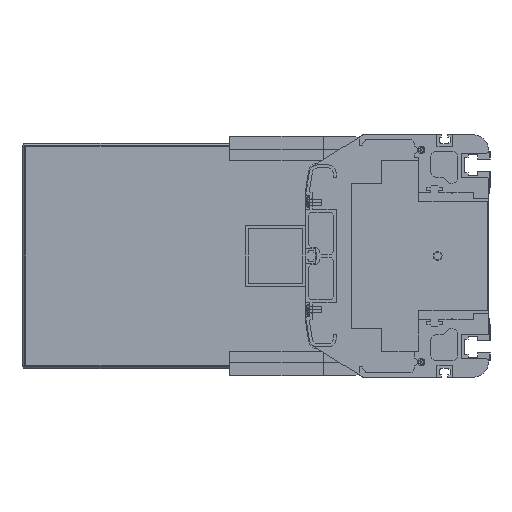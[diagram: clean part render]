
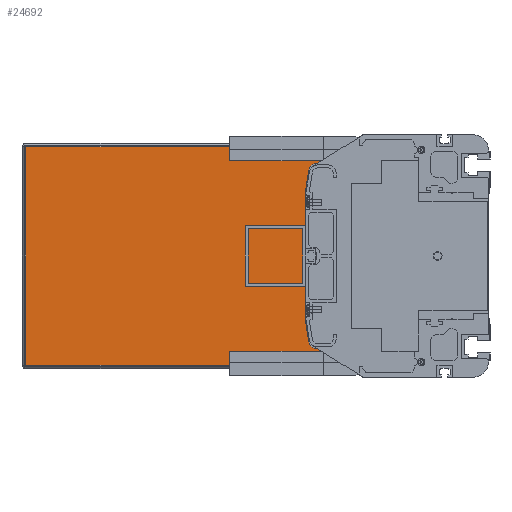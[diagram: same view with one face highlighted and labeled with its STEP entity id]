
A CAD part, left-side view. The second image highlights one B-rep face of the part: STEP entity #24692.
In plain terms, the highlighted planar face has unit normal (-1, 0, 0).
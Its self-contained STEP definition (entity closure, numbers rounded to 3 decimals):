
#1810=DIRECTION('',(0.,1.,0.));
#1811=VECTOR('',#1810,220.5);
#1812=CARTESIAN_POINT('',(4186.5,86.,72.));
#1813=LINE('',#1812,#1811);
#1861=DIRECTION('',(0.,-1.,0.));
#1862=VECTOR('',#1861,220.5);
#1863=CARTESIAN_POINT('',(4186.5,306.5,-72.));
#1864=LINE('',#1863,#1862);
#1920=DIRECTION('',(0.,0.,-1.));
#1921=VECTOR('',#1920,144.);
#1922=CARTESIAN_POINT('',(4186.5,306.5,72.));
#1923=LINE('',#1922,#1921);
#1954=CARTESIAN_POINT('',(4186.5,114.728,56.));
#1955=DIRECTION('',(-1.,0.,0.));
#1956=DIRECTION('',(0.,0.,1.));
#1957=AXIS2_PLACEMENT_3D('',#1954,#1955,#1956);
#1959=DIRECTION('',(0.,0.156,-0.988));
#1960=VECTOR('',#1959,14.963);
#1961=CARTESIAN_POINT('',(4186.5,119.666,56.78));
#1962=LINE('',#1961,#1960);
#1963=DIRECTION('',(0.,-0.156,-0.988));
#1964=VECTOR('',#1963,14.963);
#1965=CARTESIAN_POINT('',(4186.5,122.,-42.));
#1966=LINE('',#1965,#1964);
#1967=CARTESIAN_POINT('',(4186.5,114.728,-56.));
#1968=DIRECTION('',(-1.,0.,0.));
#1969=DIRECTION('',(0.,0.988,-0.156));
#1970=AXIS2_PLACEMENT_3D('',#1967,#1968,#1969);
#1977=DIRECTION('',(0.,0.,-1.));
#1978=VECTOR('',#1977,11.);
#1979=CARTESIAN_POINT('',(4186.5,86.,-61.));
#1980=LINE('',#1979,#1978);
#1986=DIRECTION('',(0.,0.,-1.));
#1987=VECTOR('',#1986,11.);
#1988=CARTESIAN_POINT('',(4186.5,86.,72.));
#1989=LINE('',#1988,#1987);
#3416=DIRECTION('',(0.,1.,0.));
#3417=VECTOR('',#3416,28.728);
#3418=CARTESIAN_POINT('',(4186.5,86.,-61.));
#3419=LINE('',#3418,#3417);
#3436=DIRECTION('',(0.,0.,1.));
#3437=VECTOR('',#3436,84.);
#3438=CARTESIAN_POINT('',(4186.5,122.,-42.));
#3439=LINE('',#3438,#3437);
#3460=DIRECTION('',(0.,-1.,0.));
#3461=VECTOR('',#3460,28.728);
#3462=CARTESIAN_POINT('',(4186.5,114.728,61.));
#3463=LINE('',#3462,#3461);
#18872=CARTESIAN_POINT('',(4186.5,306.5,-72.));
#18873=CARTESIAN_POINT('',(4186.5,86.,-72.));
#18874=VERTEX_POINT('',#18872);
#18875=VERTEX_POINT('',#18873);
#18876=CARTESIAN_POINT('',(4186.5,86.,-61.));
#18877=VERTEX_POINT('',#18876);
#18878=CARTESIAN_POINT('',(4186.5,114.728,-61.));
#18879=VERTEX_POINT('',#18878);
#18880=CARTESIAN_POINT('',(4186.5,119.666,-56.78));
#18881=VERTEX_POINT('',#18880);
#18882=CARTESIAN_POINT('',(4186.5,122.,-42.));
#18883=VERTEX_POINT('',#18882);
#18884=CARTESIAN_POINT('',(4186.5,122.,42.));
#18885=VERTEX_POINT('',#18884);
#18886=CARTESIAN_POINT('',(4186.5,119.666,56.78));
#18887=VERTEX_POINT('',#18886);
#18888=CARTESIAN_POINT('',(4186.5,114.728,61.));
#18889=VERTEX_POINT('',#18888);
#18890=CARTESIAN_POINT('',(4186.5,86.,61.));
#18891=VERTEX_POINT('',#18890);
#18892=CARTESIAN_POINT('',(4186.5,86.,72.));
#18893=VERTEX_POINT('',#18892);
#18894=CARTESIAN_POINT('',(4186.5,306.5,72.));
#18895=VERTEX_POINT('',#18894);
#24664=CARTESIAN_POINT('',(4186.5,196.25,0.));
#24665=DIRECTION('',(1.,0.,0.));
#24666=DIRECTION('',(0.,0.,-1.));
#24667=AXIS2_PLACEMENT_3D('',#24664,#24665,#24666);
#24668=PLANE('',#24667);
#24669=ORIENTED_EDGE('',*,*,#24537,.F.);
#24670=ORIENTED_EDGE('',*,*,#24633,.F.);
#24671=ORIENTED_EDGE('',*,*,#24488,.F.);
#24673=ORIENTED_EDGE('',*,*,#24672,.T.);
#24675=ORIENTED_EDGE('',*,*,#24674,.F.);
#24677=ORIENTED_EDGE('',*,*,#24676,.T.);
#24679=ORIENTED_EDGE('',*,*,#24678,.T.);
#24681=ORIENTED_EDGE('',*,*,#24680,.F.);
#24683=ORIENTED_EDGE('',*,*,#24682,.T.);
#24685=ORIENTED_EDGE('',*,*,#24684,.T.);
#24687=ORIENTED_EDGE('',*,*,#24686,.F.);
#24689=ORIENTED_EDGE('',*,*,#24688,.T.);
#24690=EDGE_LOOP('',(#24669,#24670,#24671,#24673,#24675,#24677,#24679,#24681,
#24683,#24685,#24687,#24689));
#24691=FACE_OUTER_BOUND('',#24690,.F.);
#24692=ADVANCED_FACE('',(#24691),#24668,.F.);
#1958=CIRCLE('',#1957,5.);
#1971=CIRCLE('',#1970,5.);
#24488=EDGE_CURVE('',#18893,#18895,#1813,.T.);
#24537=EDGE_CURVE('',#18874,#18875,#1864,.T.);
#24633=EDGE_CURVE('',#18895,#18874,#1923,.T.);
#24672=EDGE_CURVE('',#18893,#18891,#1989,.T.);
#24674=EDGE_CURVE('',#18889,#18891,#3463,.T.);
#24676=EDGE_CURVE('',#18889,#18887,#1958,.T.);
#24678=EDGE_CURVE('',#18887,#18885,#1962,.T.);
#24680=EDGE_CURVE('',#18883,#18885,#3439,.T.);
#24682=EDGE_CURVE('',#18883,#18881,#1966,.T.);
#24684=EDGE_CURVE('',#18881,#18879,#1971,.T.);
#24686=EDGE_CURVE('',#18877,#18879,#3419,.T.);
#24688=EDGE_CURVE('',#18877,#18875,#1980,.T.);
